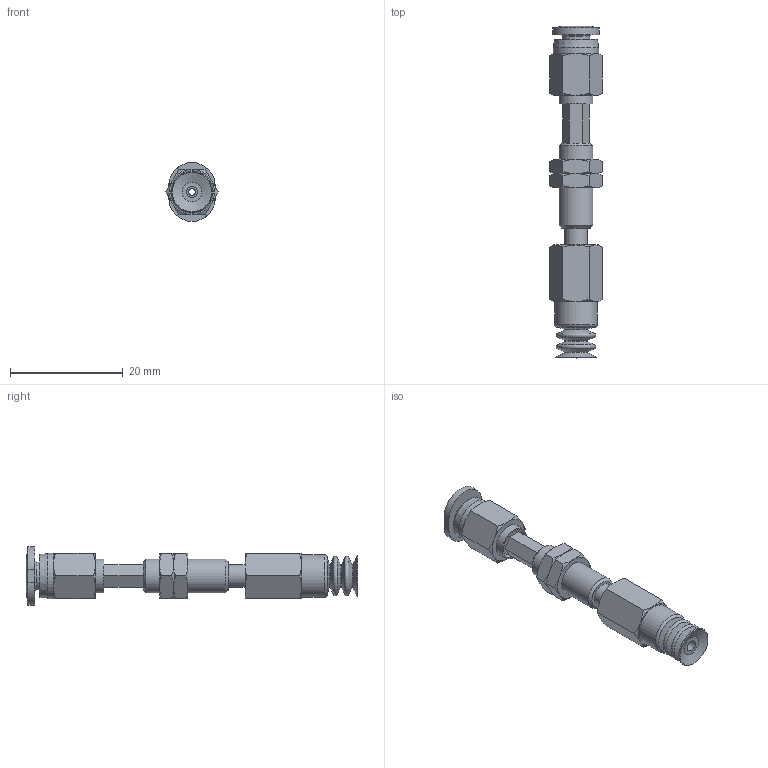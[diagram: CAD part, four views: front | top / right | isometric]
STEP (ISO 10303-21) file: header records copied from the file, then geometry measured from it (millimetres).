
FILE_DESCRIPTION(('STEP AP203'),'1');
FILE_NAME('-O.stp','2025-08-27T01:57:53',(' '),(' '),'Spatial InterOp 3D',' ',' ');
FILE_SCHEMA(('CONFIG_CONTROL_DESIGN'));
Length unit declared in the file: millimetre
Products named in the file (7): BNABPCTS-7-3-※-O; ADAPTER; NAPCTS-7-3-MBODY; Nut napc_s-7-3; NAPCTS-7-3-FBODY; BPCG-7-※; PC-C_04-M3
Assembly tree (7 placements, depth 2):
  BNABPCTS-7-3-※-O
    ADAPTER
    NAPCTS-7-3-MBODY
    Nut napc_s-7-3  x2
    NAPCTS-7-3-FBODY
    BPCG-7-※
    PC-C_04-M3
Bounding box: 9.24 x 58.77 x 10.4 mm (x, y, z)
Volume: 1528 mm3; surface area: 3057.3 mm2
Topology: 6 solids, 8 shells, 175 faces, 354 edges, 207 vertices
Faces by surface type: cone 68, plane 64, cylinder 23, torus 13, bspline 4, revolution 3
Full cylindrical faces by diameter (mm): 1.2 x2, 2 x1, 2.459 x1, 2.5 x2, 3 x1, 4 x4, 4.9 x1, 5.188 x2, 6 x4, 6.1 x1, 7.5 x1, 8 x1
Entity records: 4340 total; most frequent: CARTESIAN_POINT 1148, DIRECTION 601, ORIENTED_EDGE 498, AXIS2_PLACEMENT_3D 272, EDGE_CURVE 250, EDGE_LOOP 227, VERTEX_POINT 175, FACE_OUTER_BOUND 125
